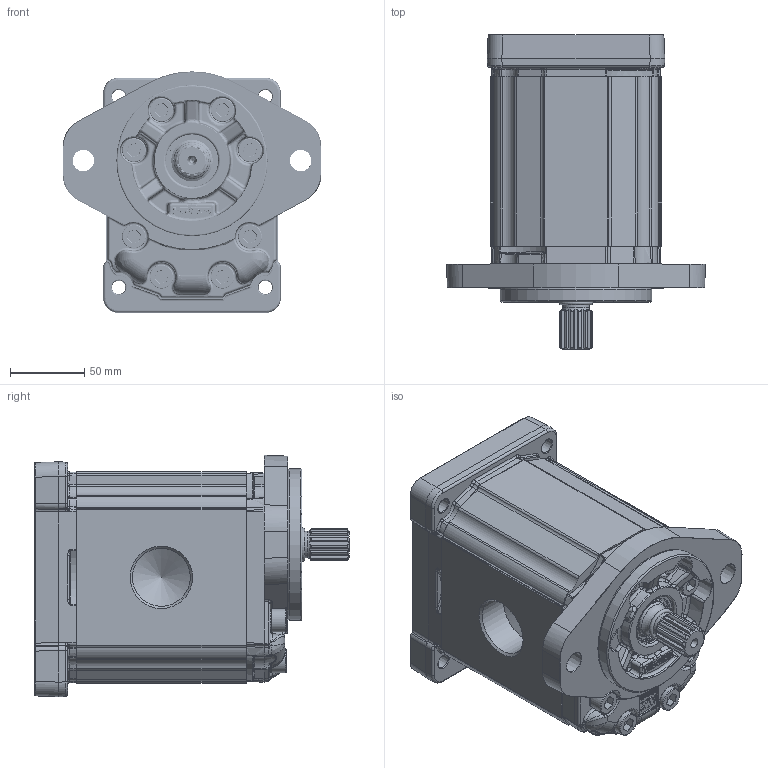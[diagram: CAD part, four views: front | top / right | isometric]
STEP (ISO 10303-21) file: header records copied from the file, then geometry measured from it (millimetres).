
FILE_DESCRIPTION(/* description */ ('Unknown'),/* implementation_level */ '2;1');
FILE_NAME(/* name */ 'X3T8731IFFA',/* time_stamp */ '2026-06-04T20:03:02+02:00',/* author */ ('Unknown'),/* organization */ ('Unknown'),/* preprocessor_version */ 'ST-DEVELOPER v16.7',/* originating_system */ 'Solid Edge',/* authorisation */ 'Unknown');
FILE_SCHEMA (('AUTOMOTIVE_DESIGN {1 0 10303 214 3 1 1}'));
Products named in the file (5): X3T8731IFFA; X3T31; 3I; X3FFH114; XT331-A
Assembly tree (4 placements, depth 2):
  X3T8731IFFA
    X3T31
    3I
    X3FFH114
    XT331-A
Bounding box: 174 x 211.2 x 162.2 mm (x, y, z)
Volume: 2519706.8 mm3; surface area: 258813.8 mm2
Topology: 5 solids, 6 shells, 4204 faces, 13006 edges, 8102 vertices
Faces by surface type: cylinder 1811, plane 1282, bspline 602, torus 263, cone 221, sphere 25
Full cylindrical faces by diameter (mm): 2 x2, 6.8 x4, 9.007 x4, 10 x16, 10.35 x32, 14.314 x1, 14.315 x1, 15.8 x16, 16 x16, 17 x2, 18 x2, 20.5 x1, 24.98 x2, 25 x2, 25.968 x1, 28.16 x1, 31 x1, 31.293 x1, 32.742 x1, 34.956 x1, 35 x2, 35.2 x1, 37 x1, 38.952 x2, 46.8 x1, 50.8 x1, 101.6 x1
Entity records: 236455 total; most frequent: CARTESIAN_POINT 100671, ORIENTED_EDGE 24916, DIRECTION 19728, EDGE_CURVE 12458, VERTEX_POINT 7920, AXIS2_PLACEMENT_3D 7717, FACE_BOUND 4684, EDGE_LOOP 4675
